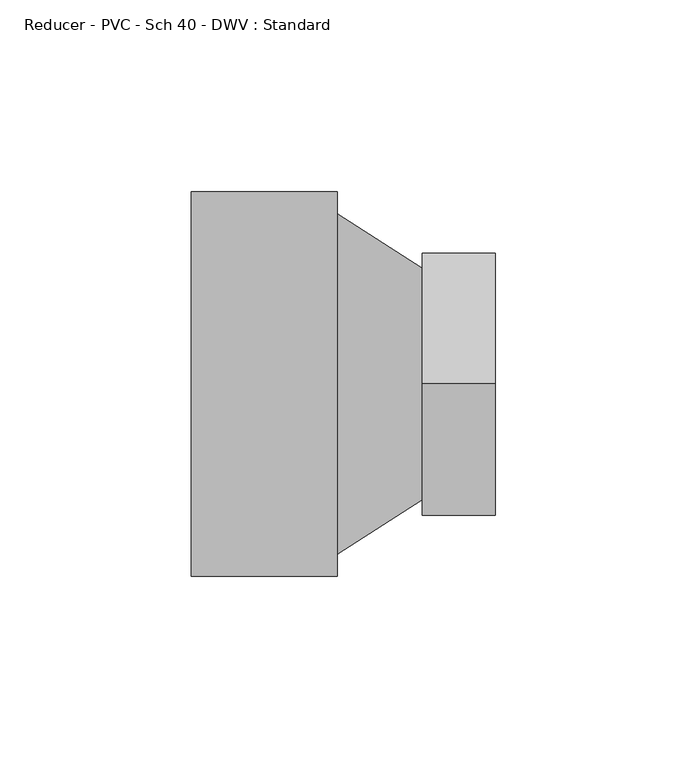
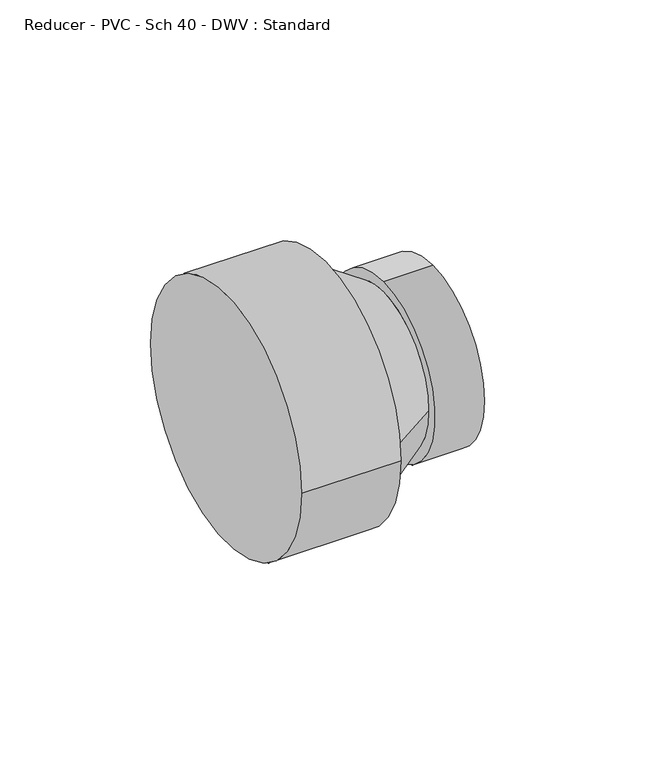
"""IFC4 building model written with IfcOpenShell, lengths in millimetres: pipe fitting geometry, Reducer - PVC - Sch 40 - DWV : Standard."""

from ifc_helpers import new_model, si_unit, frame, origin, place, context, project, spatial, polyline, circle_curve, source, transform, mapped, element, save
from ifc_brep_helpers import plane_surface, cylinder_surface, revolved_surface, advanced_brep


def reducer_pvc_sch_40_dwv_standard_f8e5081b(model_context):
    return source(origin(), model_context, "Body", "AdvancedBrep", [
        advanced_brep(
        [(0.0, 50.2666, 0.0), (0.0, -50.2666, 0.0), (38.1, 50.2666, 0.0), (38.1, -50.2666, 0.0), (38.1, -44.45, 0.0), (38.1, 44.45, 0.0), (60.325, 30.1625, 0.0), (60.325, -30.1625, 0.0), (60.325, 0.0, 34.3154), (60.325, 0.0, -34.3154), (79.375, 0.0, 34.3154), (79.375, 0.0, -34.3154)],
        [
            (0, 1, circle_curve(frame((0.0, 0.0, 0.0), z_axis=(-1.0, 0.0, 0.0), x_axis=(0.0, -1.0, 0.0)), 50.2666)),
            (1, 0, circle_curve(frame((0.0, 0.0, 0.0), z_axis=(-1.0, 0.0, 0.0), x_axis=(0.0, -1.0, 0.0)), 50.2666)),
            (2, 3, circle_curve(frame((38.1, 0.0, 0.0), z_axis=(1.0, 0.0, 0.0), x_axis=(0.0, -1.0, 0.0)), 50.2666)),
            (3, 2, circle_curve(frame((38.1, 0.0, 0.0), z_axis=(1.0, 0.0, 0.0), x_axis=(0.0, -1.0, 0.0)), 50.2666)),
            (4, 5, circle_curve(frame((38.1, 0.0, 0.0), z_axis=(-1.0, 0.0, 0.0), x_axis=(0.0, -1.0, 0.0)), 44.45)),
            (5, 4, circle_curve(frame((38.1, 0.0, 0.0), z_axis=(-1.0, 0.0, 0.0), x_axis=(0.0, 1.0, 0.0)), 44.45)),
            (1, 3),
            (2, 0),
            (5, 6),
            (6, 7, circle_curve(frame((60.325, 0.0, 0.0), z_axis=(-1.0, 0.0, 0.0), x_axis=(0.0, 1.0, 0.0)), 30.1625)),
            (7, 4),
            (7, 6, circle_curve(frame((60.325, 0.0, 0.0), z_axis=(-1.0, 0.0, 0.0), x_axis=(0.0, -1.0, 0.0)), 30.1625)),
            (8, 9, circle_curve(frame((60.325, 0.0, 0.0), z_axis=(-1.0, 0.0, 0.0), x_axis=(0.0, 0.0, -1.0)), 34.3154)),
            (9, 8, circle_curve(frame((60.325, 0.0, 0.0), z_axis=(-1.0, 0.0, 0.0), x_axis=(0.0, 0.0, -1.0)), 34.3154)),
            (10, 11, circle_curve(frame((79.375, 0.0, 0.0), z_axis=(1.0, 0.0, 0.0), x_axis=(0.0, 0.0, -1.0)), 34.3154)),
            (11, 10, circle_curve(frame((79.375, 0.0, 0.0), z_axis=(1.0, 0.0, 0.0), x_axis=(0.0, 0.0, -1.0)), 34.3154)),
            (9, 11),
            (10, 8),
        ],
        [
            plane_surface(frame((0.0, 0.0, 0.0), z_axis=(-1.0, 0.0, 0.0), x_axis=(0.0, 0.0, 1.0))),
            plane_surface(frame((38.1, 0.0, 0.0), z_axis=(1.0, 0.0, 0.0), x_axis=(0.0, 0.0, 1.0))),
            cylinder_surface(frame((0.0, 0.0, 0.0), z_axis=(-1.0, 0.0, 0.0), x_axis=(0.0, -1.0, 0.0)), 50.2666),
            revolved_surface(polyline([(60.32500000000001, -30.16249999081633, 0.0), (38.10000000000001, -44.45, 0.0)]), (107.2444444, 0.0, 0.0), (-1.0, 0.0, 0.0)),
            revolved_surface(polyline([(60.32500000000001, 30.16249999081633, 0.0), (38.10000000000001, 44.45, 0.0)]), (107.2444444, 0.0, 0.0), (-1.0, 0.0, 0.0)),
            plane_surface(frame((60.325, 0.0, 0.0), z_axis=(-1.0, 0.0, 0.0), x_axis=(0.0, -1.0, 0.0))),
            plane_surface(frame((79.375, 0.0, 0.0), z_axis=(1.0, 0.0, 0.0), x_axis=(0.0, -1.0, 0.0))),
            cylinder_surface(frame((60.325, 0.0, 0.0), z_axis=(-1.0, 0.0, 0.0), x_axis=(0.0, 0.0, -1.0)), 34.3154),
        ],
        [
            (0, [[1, 2]]),
            (1, [[3, 4], [5, 6]]),
            (2, [[7, -3, 8, -2]]),
            (2, [[-8, -4, -7, -1]]),
            (3, [[-6, 9, 10, 11]]),
            (4, [[12, -9, -5, -11]]),
            (5, [[13, 14], [-12, -10]]),
            (6, [[15, 16]]),
            (7, [[17, -15, 18, -14]]),
            (7, [[-18, -16, -17, -13]]),
        ],
    ),
    ])


if __name__ == "__main__":
    model = new_model("IFC4")
    model_context = context("Model", 3, world=origin())
    ifc_project = project(units=[si_unit("LENGTHUNIT", "METRE", prefix="MILLI")], contexts=[model_context])
    site = spatial("IfcSite", under=ifc_project)
    building = spatial("IfcBuilding", under=site)
    placement = place(None, origin())
    reducer_pvc_sch_40_dwv_standard_shape = reducer_pvc_sch_40_dwv_standard_f8e5081b(model_context)
    element("IfcPipeFitting", 1, ObjectType="Reducer - PVC - Sch 40 - DWV : Standard", at=placement, inside=building, context=model_context, shape_type="MappedRepresentation", body=[
        mapped(reducer_pvc_sch_40_dwv_standard_shape, transform((0.0, 0.0, 0.0), x_axis=(1.0, 0.0, 0.0), y_axis=(0.0, 1.0, 0.0), z_axis=(0.0, 0.0, 1.0))),
    ])
    save(model, "model.ifc")
